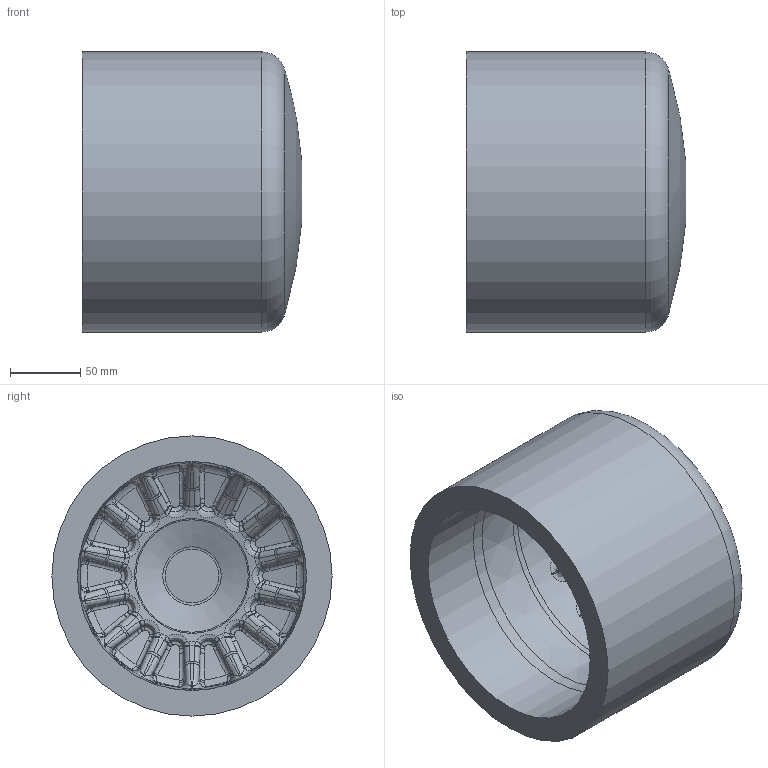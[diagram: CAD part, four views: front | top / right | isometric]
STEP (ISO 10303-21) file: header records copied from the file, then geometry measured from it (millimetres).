
FILE_DESCRIPTION(/* description */ ('Unknown'),/* implementation_level */ '2;1');
FILE_NAME(/* name */ 'CAP200C',/* time_stamp */ '2021-02-04T10:02:44+01:00',/* author */ ('Unknown'),/* organization */ ('Unknown'),/* preprocessor_version */ 'ST-DEVELOPER v16.7',/* originating_system */ 'Solid Edge',/* authorisation */ 'Unknown');
FILE_SCHEMA (('AUTOMOTIVE_DESIGN {1 0 10303 214 3 1 1}'));
Length unit declared in the file: millimetre
Products named in the file (1): CAP200C
Bounding box: 157 x 200 x 200 mm (x, y, z)
Volume: 1981891.1 mm3; surface area: 217619 mm2
Topology: 1 solids, 1 shells, 547 faces, 1260 edges, 716 vertices
Faces by surface type: bspline 364, torus 103, cone 32, plane 31, sphere 15, cylinder 2
Full cylindrical faces by diameter (mm): 163.6 x1, 200 x1
Entity records: 19802 total; most frequent: CARTESIAN_POINT 9828, ORIENTED_EDGE 2490, DIRECTION 1598, EDGE_CURVE 1245, AXIS2_PLACEMENT_3D 799, VERTEX_POINT 713, B_SPLINE_CURVE_WITH_KNOTS 630, CIRCLE 587
